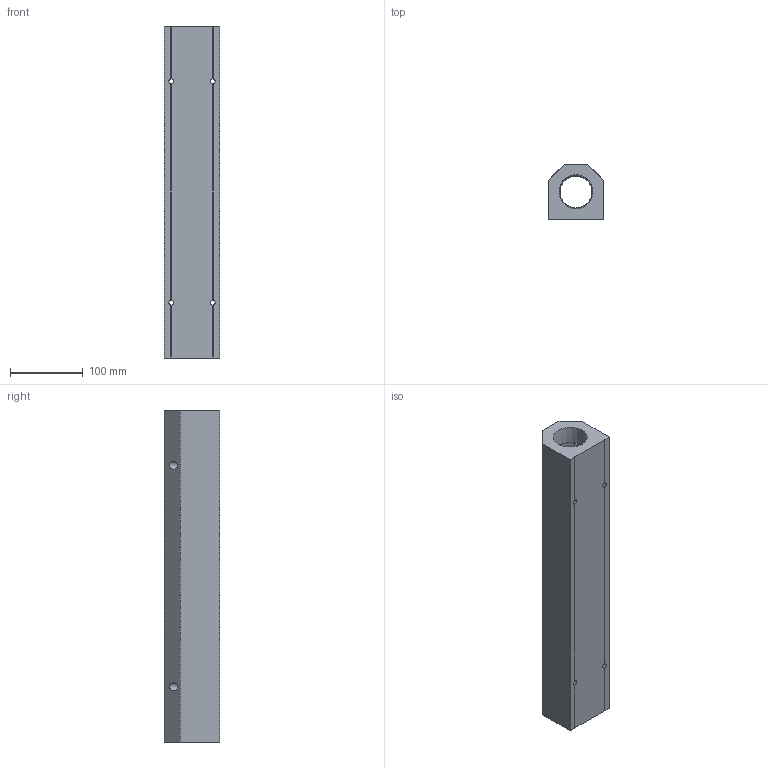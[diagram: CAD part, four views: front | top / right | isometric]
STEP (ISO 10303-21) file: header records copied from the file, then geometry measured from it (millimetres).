
FILE_DESCRIPTION (( 'STEP AP214' ), '1' );
FILE_NAME ('ALM8C-N6N24-457R.step', '2022-02-07T07:58:18', ( '' ), ( '' ), 'SwSTEP 2.0', 'SolidWorks 2020', '' );
FILE_SCHEMA (( 'AUTOMOTIVE_DESIGN' ));
Length unit declared in the file: millimetre
Products named in the file (1): ALM8C-N6N24-457R
Bounding box: 76.2 x 76.2 x 457 mm (x, y, z)
Volume: 1677090.4 mm3; surface area: 207330.9 mm2
Topology: 1 solids, 1 shells, 295 faces, 778 edges, 516 vertices
Faces by surface type: plane 200, bspline 57, cone 20, cylinder 18
Entity records: 16181 total; most frequent: CARTESIAN_POINT 6487, ORIENTED_EDGE 1556, DIRECTION 1162, EDGE_CURVE 778, VECTOR 580, LINE 580, VERTEX_POINT 516, EDGE_LOOP 352
